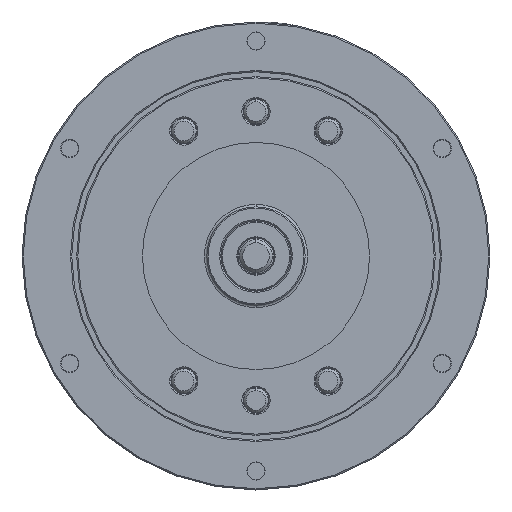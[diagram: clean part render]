
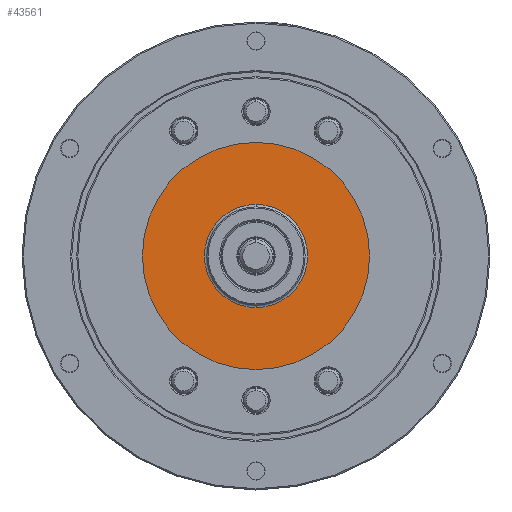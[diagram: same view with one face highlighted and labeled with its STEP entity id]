
A CAD part, left-side view. The second image highlights one B-rep face of the part: STEP entity #43561.
In plain terms, the highlighted planar face has unit normal (-1, 0, 0).
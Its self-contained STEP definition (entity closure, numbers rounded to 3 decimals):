
#190 = FACE_OUTER_BOUND ( 'NONE', #7766, .T. ) ;
#372 = AXIS2_PLACEMENT_3D ( 'NONE', #26069, #25979, #25967 ) ;
#522 = EDGE_CURVE ( 'NONE', #30362, #22863, #6599, .T. ) ;
#2550 = CIRCLE ( 'NONE', #38222, 42. ) ;
#3378 = CARTESIAN_POINT ( 'NONE',  ( -111.5, 92.5, 0. ) ) ;
#4320 = AXIS2_PLACEMENT_3D ( 'NONE', #17454, #12256, #25974 ) ;
#4522 = DIRECTION ( 'NONE',  ( -1., 0., 0. ) ) ;
#5266 = ORIENTED_EDGE ( 'NONE', *, *, #17410, .T. ) ;
#5589 = ORIENTED_EDGE ( 'NONE', *, *, #21367, .F. ) ;
#6575 = CARTESIAN_POINT ( 'NONE',  ( -111.5, -92.5, 0. ) ) ;
#6599 = CIRCLE ( 'NONE', #4320, 92.5 ) ;
#6823 = CARTESIAN_POINT ( 'NONE',  ( -111.5, 0., -42. ) ) ;
#7766 = EDGE_LOOP ( 'NONE', ( #8806, #5589 ) ) ;
#8806 = ORIENTED_EDGE ( 'NONE', *, *, #522, .F. ) ;
#11476 = DIRECTION ( 'NONE',  ( 0., 0., -1. ) ) ;
#11485 = DIRECTION ( 'NONE',  ( 1., 0., 0. ) ) ;
#11633 = CARTESIAN_POINT ( 'NONE',  ( -111.5, 0., 0. ) ) ;
#11711 = PLANE ( 'NONE',  #44854 ) ;
#12256 = DIRECTION ( 'NONE',  ( 1., 0., 0. ) ) ;
#12481 = DIRECTION ( 'NONE',  ( 0., 0., -1. ) ) ;
#12493 = DIRECTION ( 'NONE',  ( 1., 0., 0. ) ) ;
#12540 = CARTESIAN_POINT ( 'NONE',  ( -111.5, 0., 0. ) ) ;
#15386 = CARTESIAN_POINT ( 'NONE',  ( -111.5, 92.5, 0. ) ) ;
#17410 = EDGE_CURVE ( 'NONE', #37010, #32596, #2550, .T. ) ;
#17454 = CARTESIAN_POINT ( 'NONE',  ( -111.5, 0., 0. ) ) ;
#18151 = CARTESIAN_POINT ( 'NONE',  ( -111.5, 0., 42. ) ) ;
#21367 = EDGE_CURVE ( 'NONE', #22863, #30362, #45050, .T. ) ;
#22863 = VERTEX_POINT ( 'NONE', #6575 ) ;
#25848 = CIRCLE ( 'NONE', #372, 42. ) ;
#25967 = DIRECTION ( 'NONE',  ( 0., 0., -1. ) ) ;
#25974 = DIRECTION ( 'NONE',  ( 0., 0., -1. ) ) ;
#25979 = DIRECTION ( 'NONE',  ( 1., 0., 0. ) ) ;
#26069 = CARTESIAN_POINT ( 'NONE',  ( -111.5, 0., 0. ) ) ;
#28228 = FACE_BOUND ( 'NONE', #40645, .T. ) ;
#30129 = DIRECTION ( 'NONE',  ( 0., 0., 1. ) ) ;
#30362 = VERTEX_POINT ( 'NONE', #3378 ) ;
#32596 = VERTEX_POINT ( 'NONE', #6823 ) ;
#33421 = EDGE_CURVE ( 'NONE', #32596, #37010, #25848, .T. ) ;
#37010 = VERTEX_POINT ( 'NONE', #18151 ) ;
#38222 = AXIS2_PLACEMENT_3D ( 'NONE', #12540, #12493, #12481 ) ;
#38786 = ORIENTED_EDGE ( 'NONE', *, *, #33421, .T. ) ;
#40645 = EDGE_LOOP ( 'NONE', ( #38786, #5266 ) ) ;
#41707 = AXIS2_PLACEMENT_3D ( 'NONE', #11633, #11485, #11476 ) ;
#43561 = ADVANCED_FACE ( 'NONE', ( #28228, #190 ), #11711, .T. ) ;
#44854 = AXIS2_PLACEMENT_3D ( 'NONE', #15386, #4522, #30129 ) ;
#45050 = CIRCLE ( 'NONE', #41707, 92.5 ) ;
